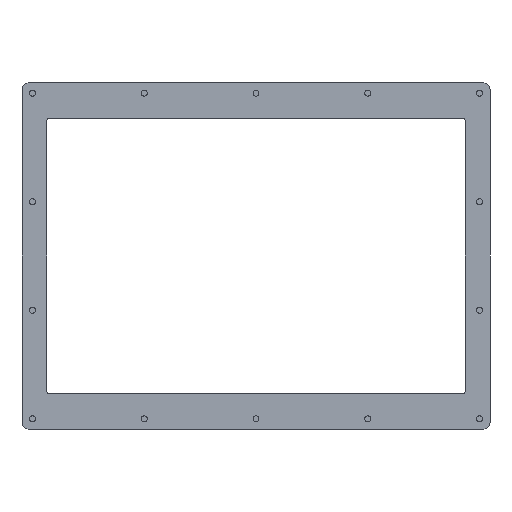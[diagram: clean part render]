
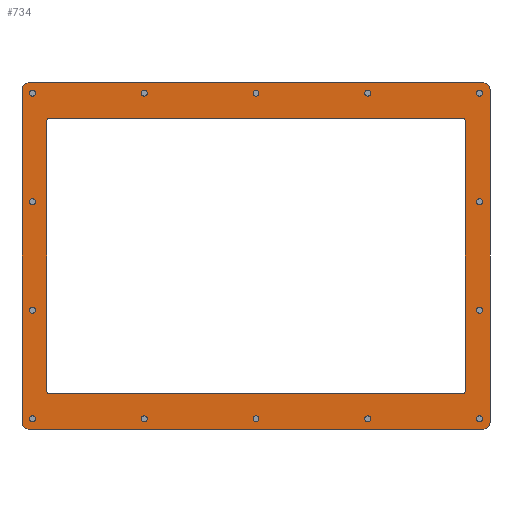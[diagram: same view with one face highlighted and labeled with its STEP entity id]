
A CAD part, front view. The second image highlights one B-rep face of the part: STEP entity #734.
In plain terms, the highlighted planar face has unit normal (0, -1, 0).
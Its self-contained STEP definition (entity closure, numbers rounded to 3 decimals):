
#82=CIRCLE('',#798,5.08);
#84=CIRCLE('',#802,5.08);
#86=CIRCLE('',#806,5.08);
#88=CIRCLE('',#810,1.905);
#90=CIRCLE('',#814,1.905);
#92=CIRCLE('',#818,1.905);
#94=CIRCLE('',#822,1.905);
#97=CIRCLE('',#826,1.707);
#99=CIRCLE('',#830,1.707);
#101=CIRCLE('',#833,1.707);
#103=CIRCLE('',#836,1.707);
#105=CIRCLE('',#839,1.707);
#107=CIRCLE('',#842,1.707);
#109=CIRCLE('',#845,1.707);
#111=CIRCLE('',#848,1.707);
#113=CIRCLE('',#851,1.707);
#115=CIRCLE('',#854,1.707);
#117=CIRCLE('',#857,1.707);
#119=CIRCLE('',#860,1.707);
#121=CIRCLE('',#863,1.707);
#123=CIRCLE('',#866,1.707);
#124=CIRCLE('',#868,5.08);
#276=ORIENTED_EDGE('',*,*,#387,.F.);
#277=ORIENTED_EDGE('',*,*,#385,.F.);
#278=ORIENTED_EDGE('',*,*,#383,.F.);
#279=ORIENTED_EDGE('',*,*,#381,.F.);
#280=ORIENTED_EDGE('',*,*,#379,.F.);
#281=ORIENTED_EDGE('',*,*,#377,.F.);
#282=ORIENTED_EDGE('',*,*,#375,.F.);
#283=ORIENTED_EDGE('',*,*,#373,.F.);
#284=ORIENTED_EDGE('',*,*,#371,.F.);
#285=ORIENTED_EDGE('',*,*,#369,.F.);
#286=ORIENTED_EDGE('',*,*,#367,.F.);
#287=ORIENTED_EDGE('',*,*,#365,.F.);
#288=ORIENTED_EDGE('',*,*,#363,.F.);
#289=ORIENTED_EDGE('',*,*,#336,.T.);
#290=ORIENTED_EDGE('',*,*,#340,.T.);
#291=ORIENTED_EDGE('',*,*,#343,.T.);
#292=ORIENTED_EDGE('',*,*,#346,.T.);
#293=ORIENTED_EDGE('',*,*,#349,.T.);
#294=ORIENTED_EDGE('',*,*,#352,.T.);
#295=ORIENTED_EDGE('',*,*,#355,.T.);
#296=ORIENTED_EDGE('',*,*,#360,.T.);
#297=ORIENTED_EDGE('',*,*,#359,.F.);
#298=ORIENTED_EDGE('',*,*,#314,.T.);
#299=ORIENTED_EDGE('',*,*,#318,.T.);
#300=ORIENTED_EDGE('',*,*,#321,.T.);
#301=ORIENTED_EDGE('',*,*,#324,.T.);
#302=ORIENTED_EDGE('',*,*,#327,.T.);
#303=ORIENTED_EDGE('',*,*,#330,.T.);
#304=ORIENTED_EDGE('',*,*,#333,.T.);
#305=ORIENTED_EDGE('',*,*,#388,.T.);
#314=EDGE_CURVE('',#394,#395,#458,.T.);
#318=EDGE_CURVE('',#395,#398,#82,.T.);
#321=EDGE_CURVE('',#398,#400,#463,.T.);
#324=EDGE_CURVE('',#400,#402,#84,.T.);
#327=EDGE_CURVE('',#402,#404,#467,.T.);
#330=EDGE_CURVE('',#404,#406,#86,.T.);
#333=EDGE_CURVE('',#406,#408,#471,.T.);
#336=EDGE_CURVE('',#410,#411,#88,.T.);
#340=EDGE_CURVE('',#411,#414,#476,.T.);
#343=EDGE_CURVE('',#414,#416,#90,.T.);
#346=EDGE_CURVE('',#416,#418,#480,.T.);
#349=EDGE_CURVE('',#418,#420,#92,.T.);
#352=EDGE_CURVE('',#420,#422,#484,.T.);
#355=EDGE_CURVE('',#422,#424,#94,.T.);
#359=EDGE_CURVE('',#427,#427,#97,.T.);
#360=EDGE_CURVE('',#424,#410,#488,.T.);
#363=EDGE_CURVE('',#429,#429,#99,.T.);
#365=EDGE_CURVE('',#431,#431,#101,.T.);
#367=EDGE_CURVE('',#433,#433,#103,.T.);
#369=EDGE_CURVE('',#435,#435,#105,.T.);
#371=EDGE_CURVE('',#437,#437,#107,.T.);
#373=EDGE_CURVE('',#439,#439,#109,.T.);
#375=EDGE_CURVE('',#441,#441,#111,.T.);
#377=EDGE_CURVE('',#443,#443,#113,.T.);
#379=EDGE_CURVE('',#445,#445,#115,.T.);
#381=EDGE_CURVE('',#447,#447,#117,.T.);
#383=EDGE_CURVE('',#449,#449,#119,.T.);
#385=EDGE_CURVE('',#451,#451,#121,.T.);
#387=EDGE_CURVE('',#453,#453,#123,.T.);
#388=EDGE_CURVE('',#408,#394,#124,.T.);
#394=VERTEX_POINT('',#1133);
#395=VERTEX_POINT('',#1134);
#398=VERTEX_POINT('',#1142);
#400=VERTEX_POINT('',#1148);
#402=VERTEX_POINT('',#1154);
#404=VERTEX_POINT('',#1160);
#406=VERTEX_POINT('',#1166);
#408=VERTEX_POINT('',#1172);
#410=VERTEX_POINT('',#1178);
#411=VERTEX_POINT('',#1179);
#414=VERTEX_POINT('',#1187);
#416=VERTEX_POINT('',#1193);
#418=VERTEX_POINT('',#1199);
#420=VERTEX_POINT('',#1205);
#422=VERTEX_POINT('',#1211);
#424=VERTEX_POINT('',#1217);
#427=VERTEX_POINT('',#1225);
#429=VERTEX_POINT('',#1233);
#431=VERTEX_POINT('',#1238);
#433=VERTEX_POINT('',#1243);
#435=VERTEX_POINT('',#1248);
#437=VERTEX_POINT('',#1253);
#439=VERTEX_POINT('',#1258);
#441=VERTEX_POINT('',#1263);
#443=VERTEX_POINT('',#1268);
#445=VERTEX_POINT('',#1273);
#447=VERTEX_POINT('',#1278);
#449=VERTEX_POINT('',#1283);
#451=VERTEX_POINT('',#1288);
#453=VERTEX_POINT('',#1293);
#458=LINE('',#1132,#490);
#463=LINE('',#1147,#495);
#467=LINE('',#1159,#499);
#471=LINE('',#1171,#503);
#476=LINE('',#1186,#508);
#480=LINE('',#1198,#512);
#484=LINE('',#1210,#516);
#488=LINE('',#1227,#520);
#490=VECTOR('',#900,1000.);
#495=VECTOR('',#913,1000.);
#499=VECTOR('',#925,1000.);
#503=VECTOR('',#937,1000.);
#508=VECTOR('',#950,1000.);
#512=VECTOR('',#962,1000.);
#516=VECTOR('',#974,1000.);
#520=VECTOR('',#992,1000.);
#582=EDGE_LOOP('',(#276));
#583=EDGE_LOOP('',(#277));
#584=EDGE_LOOP('',(#278));
#585=EDGE_LOOP('',(#279));
#586=EDGE_LOOP('',(#280));
#587=EDGE_LOOP('',(#281));
#588=EDGE_LOOP('',(#282));
#589=EDGE_LOOP('',(#283));
#590=EDGE_LOOP('',(#284));
#591=EDGE_LOOP('',(#285));
#592=EDGE_LOOP('',(#286));
#593=EDGE_LOOP('',(#287));
#594=EDGE_LOOP('',(#288));
#595=EDGE_LOOP('',(#289,#290,#291,#292,#293,#294,#295,#296));
#596=EDGE_LOOP('',(#297));
#597=EDGE_LOOP('',(#298,#299,#300,#301,#302,#303,#304,#305));
#666=FACE_BOUND('',#582,.T.);
#667=FACE_BOUND('',#583,.T.);
#668=FACE_BOUND('',#584,.T.);
#669=FACE_BOUND('',#585,.T.);
#670=FACE_BOUND('',#586,.T.);
#671=FACE_BOUND('',#587,.T.);
#672=FACE_BOUND('',#588,.T.);
#673=FACE_BOUND('',#589,.T.);
#674=FACE_BOUND('',#590,.T.);
#675=FACE_BOUND('',#591,.T.);
#676=FACE_BOUND('',#592,.T.);
#677=FACE_BOUND('',#593,.T.);
#678=FACE_BOUND('',#594,.T.);
#679=FACE_BOUND('',#595,.T.);
#680=FACE_BOUND('',#596,.T.);
#681=FACE_BOUND('',#597,.T.);
#699=PLANE('',#871);
#734=ADVANCED_FACE('',(#666,#667,#668,#669,#670,#671,#672,#673,#674,#675,
#676,#677,#678,#679,#680,#681),#699,.T.);
#798=AXIS2_PLACEMENT_3D('',#1141,#906,#907);
#802=AXIS2_PLACEMENT_3D('',#1153,#918,#919);
#806=AXIS2_PLACEMENT_3D('',#1165,#930,#931);
#810=AXIS2_PLACEMENT_3D('',#1177,#942,#943);
#814=AXIS2_PLACEMENT_3D('',#1192,#955,#956);
#818=AXIS2_PLACEMENT_3D('',#1204,#967,#968);
#822=AXIS2_PLACEMENT_3D('',#1216,#979,#980);
#826=AXIS2_PLACEMENT_3D('',#1224,#988,#989);
#830=AXIS2_PLACEMENT_3D('',#1232,#998,#999);
#833=AXIS2_PLACEMENT_3D('',#1237,#1004,#1005);
#836=AXIS2_PLACEMENT_3D('',#1242,#1010,#1011);
#839=AXIS2_PLACEMENT_3D('',#1247,#1016,#1017);
#842=AXIS2_PLACEMENT_3D('',#1252,#1022,#1023);
#845=AXIS2_PLACEMENT_3D('',#1257,#1028,#1029);
#848=AXIS2_PLACEMENT_3D('',#1262,#1034,#1035);
#851=AXIS2_PLACEMENT_3D('',#1267,#1040,#1041);
#854=AXIS2_PLACEMENT_3D('',#1272,#1046,#1047);
#857=AXIS2_PLACEMENT_3D('',#1277,#1052,#1053);
#860=AXIS2_PLACEMENT_3D('',#1282,#1058,#1059);
#863=AXIS2_PLACEMENT_3D('',#1287,#1064,#1065);
#866=AXIS2_PLACEMENT_3D('',#1292,#1070,#1071);
#868=AXIS2_PLACEMENT_3D('',#1295,#1074,#1075);
#871=AXIS2_PLACEMENT_3D('',#1298,#1080,#1081);
#900=DIRECTION('',(0.,0.,1.));
#906=DIRECTION('',(0.,-1.,0.));
#907=DIRECTION('',(1.,0.,0.));
#913=DIRECTION('',(-1.,0.,0.));
#918=DIRECTION('',(0.,-1.,0.));
#919=DIRECTION('',(1.,0.,0.));
#925=DIRECTION('',(0.,0.,-1.));
#930=DIRECTION('',(0.,-1.,0.));
#931=DIRECTION('',(1.,0.,0.));
#937=DIRECTION('',(1.,0.,0.));
#942=DIRECTION('',(0.,1.,0.));
#943=DIRECTION('',(1.,0.,0.));
#950=DIRECTION('',(0.,0.,1.));
#955=DIRECTION('',(0.,1.,0.));
#956=DIRECTION('',(1.,0.,0.));
#962=DIRECTION('',(1.,0.,0.));
#967=DIRECTION('',(0.,1.,0.));
#968=DIRECTION('',(-1.,0.,0.));
#974=DIRECTION('',(0.,0.,-1.));
#979=DIRECTION('',(0.,1.,0.));
#980=DIRECTION('',(1.,0.,0.));
#988=DIRECTION('',(0.,-1.,0.));
#989=DIRECTION('',(1.,0.,0.));
#992=DIRECTION('',(-1.,0.,0.));
#998=DIRECTION('',(0.,-1.,0.));
#999=DIRECTION('',(1.,0.,0.));
#1004=DIRECTION('',(0.,-1.,0.));
#1005=DIRECTION('',(1.,0.,0.));
#1010=DIRECTION('',(0.,-1.,0.));
#1011=DIRECTION('',(1.,0.,0.));
#1016=DIRECTION('',(0.,-1.,0.));
#1017=DIRECTION('',(1.,0.,0.));
#1022=DIRECTION('',(0.,-1.,0.));
#1023=DIRECTION('',(1.,0.,0.));
#1028=DIRECTION('',(0.,-1.,0.));
#1029=DIRECTION('',(1.,0.,0.));
#1034=DIRECTION('',(0.,-1.,0.));
#1035=DIRECTION('',(1.,0.,0.));
#1040=DIRECTION('',(0.,-1.,0.));
#1041=DIRECTION('',(1.,0.,0.));
#1046=DIRECTION('',(0.,-1.,0.));
#1047=DIRECTION('',(1.,0.,0.));
#1052=DIRECTION('',(0.,-1.,0.));
#1053=DIRECTION('',(1.,0.,0.));
#1058=DIRECTION('',(0.,-1.,0.));
#1059=DIRECTION('',(1.,0.,0.));
#1064=DIRECTION('',(0.,-1.,0.));
#1065=DIRECTION('',(1.,0.,0.));
#1070=DIRECTION('',(0.,-1.,0.));
#1071=DIRECTION('',(1.,0.,0.));
#1074=DIRECTION('',(0.,-1.,0.));
#1075=DIRECTION('',(-1.,0.,0.));
#1080=DIRECTION('',(0.,-1.,0.));
#1081=DIRECTION('',(0.,0.,-1.));
#1132=CARTESIAN_POINT('',(162.878,0.,-115.57));
#1133=CARTESIAN_POINT('',(162.878,0.,-115.57));
#1134=CARTESIAN_POINT('',(162.878,0.,115.57));
#1141=CARTESIAN_POINT('',(157.798,0.,115.57));
#1142=CARTESIAN_POINT('',(157.798,0.,120.65));
#1147=CARTESIAN_POINT('',(157.798,0.,120.65));
#1148=CARTESIAN_POINT('',(-157.798,0.,120.65));
#1153=CARTESIAN_POINT('',(-157.798,0.,115.57));
#1154=CARTESIAN_POINT('',(-162.878,0.,115.57));
#1159=CARTESIAN_POINT('',(-162.878,0.,115.57));
#1160=CARTESIAN_POINT('',(-162.878,0.,-115.57));
#1165=CARTESIAN_POINT('',(-157.798,0.,-115.57));
#1166=CARTESIAN_POINT('',(-157.798,0.,-120.65));
#1171=CARTESIAN_POINT('',(-157.798,0.,-120.65));
#1172=CARTESIAN_POINT('',(157.798,0.,-120.65));
#1177=CARTESIAN_POINT('',(-143.612,0.,-94.12));
#1178=CARTESIAN_POINT('',(-143.612,0.,-96.025));
#1179=CARTESIAN_POINT('',(-145.517,0.,-94.12));
#1186=CARTESIAN_POINT('',(-145.517,0.,-94.12));
#1187=CARTESIAN_POINT('',(-145.517,0.,94.12));
#1192=CARTESIAN_POINT('',(-143.612,0.,94.12));
#1193=CARTESIAN_POINT('',(-143.612,0.,96.025));
#1198=CARTESIAN_POINT('',(-143.612,0.,96.025));
#1199=CARTESIAN_POINT('',(143.612,0.,96.025));
#1204=CARTESIAN_POINT('',(143.612,0.,94.12));
#1205=CARTESIAN_POINT('',(145.517,0.,94.12));
#1210=CARTESIAN_POINT('',(145.517,0.,94.12));
#1211=CARTESIAN_POINT('',(145.517,0.,-94.12));
#1216=CARTESIAN_POINT('',(143.612,0.,-94.12));
#1217=CARTESIAN_POINT('',(143.612,0.,-96.025));
#1224=CARTESIAN_POINT('',(-155.575,0.,113.348));
#1225=CARTESIAN_POINT('',(-153.868,0.,113.348));
#1227=CARTESIAN_POINT('',(143.612,0.,-96.025));
#1232=CARTESIAN_POINT('',(-77.788,0.,113.348));
#1233=CARTESIAN_POINT('',(-76.081,0.,113.348));
#1237=CARTESIAN_POINT('',(0.,0.,113.348));
#1238=CARTESIAN_POINT('',(1.707,0.,113.348));
#1242=CARTESIAN_POINT('',(77.787,0.,113.348));
#1243=CARTESIAN_POINT('',(79.494,0.,113.348));
#1247=CARTESIAN_POINT('',(155.575,0.,113.348));
#1248=CARTESIAN_POINT('',(157.282,0.,113.348));
#1252=CARTESIAN_POINT('',(155.575,0.,37.783));
#1253=CARTESIAN_POINT('',(157.282,0.,37.783));
#1257=CARTESIAN_POINT('',(155.575,0.,-37.782));
#1258=CARTESIAN_POINT('',(157.282,0.,-37.782));
#1262=CARTESIAN_POINT('',(155.575,0.,-113.348));
#1263=CARTESIAN_POINT('',(157.282,0.,-113.348));
#1267=CARTESIAN_POINT('',(77.787,0.,-113.348));
#1268=CARTESIAN_POINT('',(79.494,0.,-113.348));
#1272=CARTESIAN_POINT('',(0.,0.,-113.348));
#1273=CARTESIAN_POINT('',(1.707,0.,-113.348));
#1277=CARTESIAN_POINT('',(-77.788,0.,-113.348));
#1278=CARTESIAN_POINT('',(-76.081,0.,-113.348));
#1282=CARTESIAN_POINT('',(-155.575,0.,-113.348));
#1283=CARTESIAN_POINT('',(-153.868,0.,-113.348));
#1287=CARTESIAN_POINT('',(-155.575,0.,-37.782));
#1288=CARTESIAN_POINT('',(-153.868,0.,-37.782));
#1292=CARTESIAN_POINT('',(-155.575,0.,37.783));
#1293=CARTESIAN_POINT('',(-153.868,0.,37.783));
#1295=CARTESIAN_POINT('',(157.798,0.,-115.57));
#1298=CARTESIAN_POINT('',(157.798,0.,115.57));
